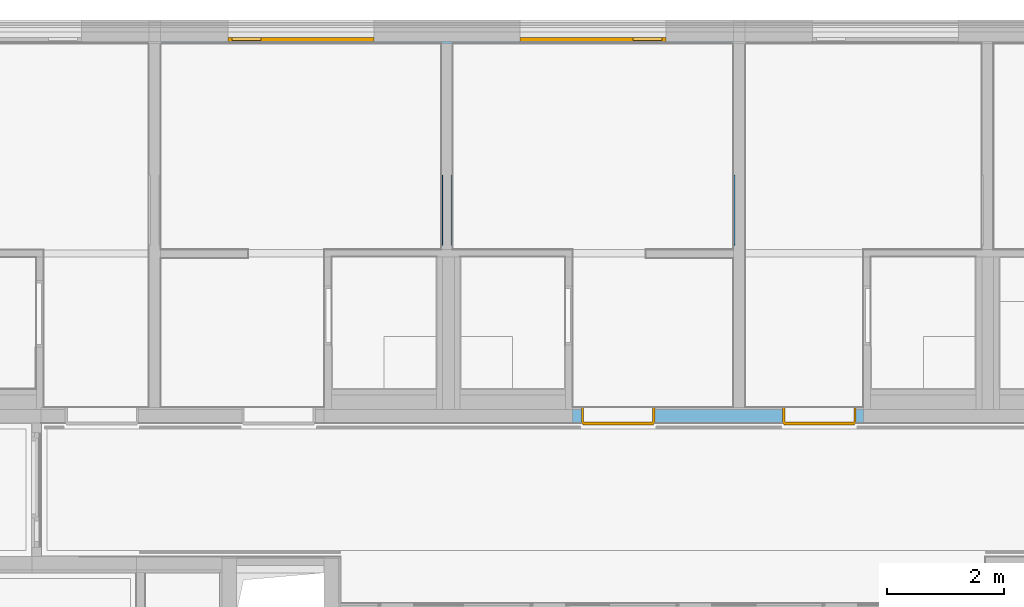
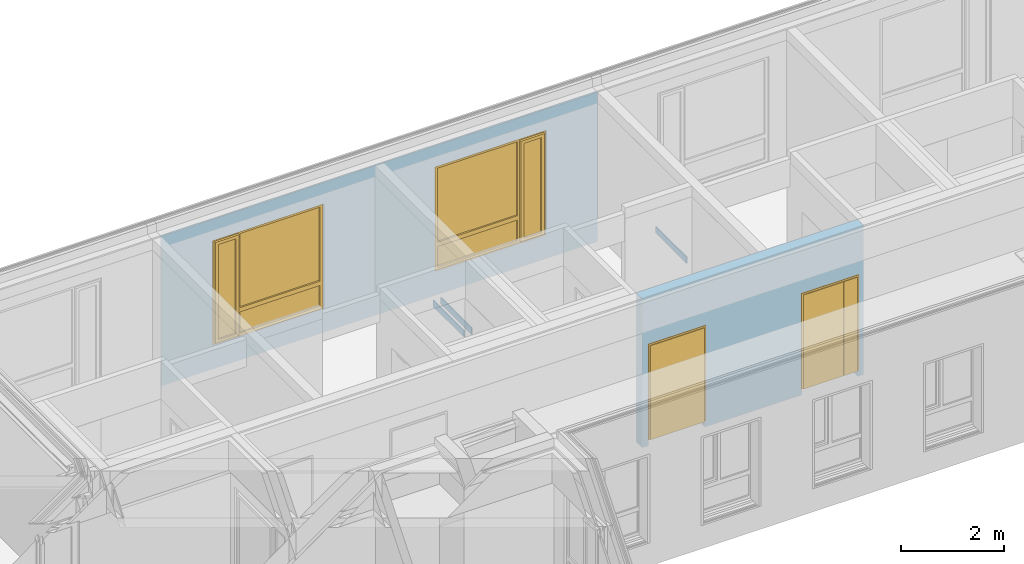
# One storey, part 142 of 222: 3 walls, 2 doors, 2 windows, 4 openings, plus 2 elements that do not belong to this part.
"""IFC4 building model written with IfcOpenShell, lengths in metres."""

from ifc_helpers import new_model, entity, si_unit, converted_unit, derived_unit, frame, frame_2d, origin, origin_with_axes, place, context, subcontext, project, spatial, polyline, rectangle, outline, extrude, closed_shell, open_shell, faceted_brep, surface_model, source, transform, mapped, material, type_object, element, fill, save


model = new_model("IFC4")

# Units and contexts
model_context = context("Model", 3, precision=1e-05, world=origin())
body_context = subcontext(model_context, "Body", "Model", "MODEL_VIEW")
ifc_project = project(units=[si_unit("LENGTHUNIT", "METRE"), si_unit("AREAUNIT", "SQUARE_METRE"), si_unit("VOLUMEUNIT", "CUBIC_METRE"), si_unit("MASSUNIT", "GRAM", prefix="KILO"), converted_unit("PLANEANGLEUNIT", "DEGREE", entity("IfcPlaneAngleMeasure", 0.0174532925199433), si_unit("PLANEANGLEUNIT", "RADIAN"), dimensions=[0, 0, 0, 0, 0, 0, 0]), derived_unit("THERMALTRANSMITTANCEUNIT", [(si_unit("POWERUNIT", "WATT"), 1), (si_unit("THERMODYNAMICTEMPERATUREUNIT", "KELVIN"), -1), (si_unit("LENGTHUNIT", "METRE"), -2)]), derived_unit("VOLUMETRICFLOWRATEUNIT", [(si_unit("LENGTHUNIT", "METRE"), 3), (converted_unit("TIMEUNIT", "hour", entity("IfcTimeMeasure", 3600.0), si_unit("TIMEUNIT", "SECOND"), dimensions=[0, 0, 1, 0, 0, 0, 0]), -1), (si_unit("LENGTHUNIT", "METRE"), -1)])], contexts=[model_context])

# Site, building, storey
site_placement = place(None, origin())
site = spatial("IfcSite", under=ifc_project, at=site_placement, Name="Psychiatrie Neubau Wunstorf", CompositionType="ELEMENT")
building_placement = place(site_placement, origin())
building = spatial("IfcBuilding", under=site, at=building_placement, Name="Neubau H2 Stationsgebäude", CompositionType="ELEMENT")
storey_placement = place(building_placement, frame((0.0, 0.0, 3.6)))
storey = spatial("IfcBuildingStorey", under=building, at=storey_placement, Name="H2 Ebene +1", CompositionType="ELEMENT", Elevation=3.6)

# Wall, openings, windows
ifc_material_1 = material(Name="WA-LB")
wall_1_placement = place(storey_placement, frame((76.1, 31.614, 0.0)))
wall_1 = element("IfcWall", 1, at=wall_1_placement, inside=storey, material=ifc_material_1, context=body_context, shape_type="SweptSolid", body=[
    extrude(rectangle(XDim=9.8, YDim=0.036, at=frame_2d((4.9, 0.018), x_axis=(1.0, 0.0))), origin_with_axes(), (0.0, 0.0, 1.0), 3.55),
])
opening_1_placement = place(wall_1_placement, frame((6.15, 0.0, 0.55), z_axis=(0.0, 1.0, 0.0), x_axis=(0.0, 0.0, 1.0)))
opening_1 = element("IfcOpeningElement", 2, at=opening_1_placement, cuts=wall_1, Name="Fensteröffnung", ObjectType="Opening", context=body_context, shape_type="SweptSolid", body=[
    extrude(outline(polyline([(2.5, 2.5), (2.5, 0.0), (0.0, 0.0), (0.0, 2.5), (2.5, 2.5)])), origin_with_axes(), (0.0, 0.0, 1.0), 0.036),
])
opening_2_placement = place(wall_1_placement, frame((1.15, 0.0, 0.55), z_axis=(0.0, 1.0, 0.0), x_axis=(0.0, 0.0, 1.0)))
opening_2 = element("IfcOpeningElement", 3, at=opening_2_placement, cuts=wall_1, Name="Fensteröffnung", ObjectType="Opening", context=body_context, shape_type="SweptSolid", body=[
    extrude(outline(polyline([(2.5, 2.5), (2.5, 0.0), (0.0, 0.0), (0.0, 2.5), (2.5, 2.5)])), origin_with_axes(), (0.0, 0.0, 1.0), 0.036),
])
shared_shape_1 = source(origin_with_axes(), body_context, "Body", "SurfaceModel", [
    surface_model("IfcShellBasedSurfaceModel", [(2.5, 0.0, 2.5), (2.5, 0.0, 0.0), (2.43, 0.0, 0.0), (2.43, 0.0, 2.5), (2.5, 0.0699999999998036, 0.0), (2.5, 0.0699999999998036, 2.5), (2.43, 0.0699999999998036, 2.5), (2.43, 0.0699999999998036, 0.0)], [closed_shell([[[0, 1, 2, 3]], [[4, 5, 6, 7]], [[1, 0, 5, 4]], [[2, 1, 4, 7]], [[3, 2, 7, 6]], [[0, 3, 6, 5]]], orient=[[False], [False], [False], [False], [False], [False]])]),
    surface_model("IfcShellBasedSurfaceModel", [(0.07, 0.0, 2.5), (0.07, 0.0, 0.0), (0.0, 0.0, 0.0), (0.0, 0.0, 2.5), (0.07, 0.0699999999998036, 0.0), (0.07, 0.0699999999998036, 2.5), (0.0, 0.0699999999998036, 2.5), (0.0, 0.0699999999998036, 0.0)], [closed_shell([[[0, 1, 2, 3]], [[4, 5, 6, 7]], [[1, 0, 5, 4]], [[2, 1, 4, 7]], [[3, 2, 7, 6]], [[0, 3, 6, 5]]], orient=[[False], [False], [False], [False], [False], [False]])]),
    surface_model("IfcShellBasedSurfaceModel", [(2.43, 0.0, 0.07), (2.43, 0.0, 0.0), (0.07, 0.0, 0.0), (0.07, 0.0, 0.07), (2.43, 0.0699999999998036, 0.0), (2.43, 0.0699999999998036, 0.07), (0.07, 0.0699999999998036, 0.07), (0.07, 0.0699999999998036, 0.0)], [closed_shell([[[0, 1, 2, 3]], [[4, 5, 6, 7]], [[1, 0, 5, 4]], [[2, 1, 4, 7]], [[3, 2, 7, 6]], [[0, 3, 6, 5]]], orient=[[False], [False], [False], [False], [False], [False]])]),
    surface_model("IfcShellBasedSurfaceModel", [(2.43, 0.0, 2.5), (2.43, 0.0, 2.43), (0.07, 0.0, 2.43), (0.07, 0.0, 2.5), (2.43, 0.0699999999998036, 2.43), (2.43, 0.0699999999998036, 2.5), (0.07, 0.0699999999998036, 2.5), (0.07, 0.0699999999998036, 2.43)], [closed_shell([[[0, 1, 2, 3]], [[4, 5, 6, 7]], [[1, 0, 5, 4]], [[2, 1, 4, 7]], [[3, 2, 7, 6]], [[0, 3, 6, 5]]], orient=[[False], [False], [False], [False], [False], [False]])]),
    surface_model("IfcShellBasedSurfaceModel", [(1.934285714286, 0.0, 2.43), (1.934285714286, 0.0, 0.07), (1.864285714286, 0.0, 0.07), (1.864285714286, 0.0, 2.43), (1.934285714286, 0.0699999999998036, 0.07), (1.934285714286, 0.0699999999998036, 2.43), (1.864285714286, 0.0699999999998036, 2.43), (1.864285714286, 0.0699999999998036, 0.07)], [closed_shell([[[0, 1, 2, 3]], [[4, 5, 6, 7]], [[1, 0, 5, 4]], [[2, 1, 4, 7]], [[3, 2, 7, 6]], [[0, 3, 6, 5]]], orient=[[False], [False], [False], [False], [False], [False]])]),
    surface_model("IfcShellBasedSurfaceModel", [(2.45, -0.05, 2.45), (2.45, -0.05, 0.05), (2.38, -0.05, 0.05), (2.38, -0.05, 2.45), (2.45, 0.0199999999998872, 0.05), (2.45, 0.0199999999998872, 2.45), (2.38, 0.0199999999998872, 2.45), (2.38, 0.0199999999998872, 0.05)], [closed_shell([[[0, 1, 2, 3]], [[4, 5, 6, 7]], [[1, 0, 5, 4]], [[2, 1, 4, 7]], [[3, 2, 7, 6]], [[0, 3, 6, 5]]], orient=[[False], [False], [False], [False], [False], [False]])]),
    surface_model("IfcShellBasedSurfaceModel", [(1.984285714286, -0.05, 2.45), (1.984285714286, -0.05, 0.05), (1.914285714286, -0.05, 0.05), (1.914285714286, -0.05, 2.45), (1.984285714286, 0.0199999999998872, 0.05), (1.984285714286, 0.0199999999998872, 2.45), (1.914285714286, 0.0199999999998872, 2.45), (1.914285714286, 0.0199999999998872, 0.05)], [closed_shell([[[0, 1, 2, 3]], [[4, 5, 6, 7]], [[1, 0, 5, 4]], [[2, 1, 4, 7]], [[3, 2, 7, 6]], [[0, 3, 6, 5]]], orient=[[False], [False], [False], [False], [False], [False]])]),
    surface_model("IfcShellBasedSurfaceModel", [(2.38, -0.05, 0.12), (2.38, -0.05, 0.05), (1.984285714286, -0.05, 0.05), (1.984285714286, -0.05, 0.12), (2.38, 0.0199999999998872, 0.05), (2.38, 0.0199999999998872, 0.12), (1.984285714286, 0.0199999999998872, 0.12), (1.984285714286, 0.0199999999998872, 0.05)], [closed_shell([[[0, 1, 2, 3]], [[4, 5, 6, 7]], [[1, 0, 5, 4]], [[2, 1, 4, 7]], [[3, 2, 7, 6]], [[0, 3, 6, 5]]], orient=[[False], [False], [False], [False], [False], [False]])]),
    surface_model("IfcShellBasedSurfaceModel", [(2.38, -0.05, 2.45), (2.38, -0.05, 2.38), (1.984285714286, -0.05, 2.38), (1.984285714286, -0.05, 2.45), (2.38, 0.0199999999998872, 2.38), (2.38, 0.0199999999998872, 2.45), (1.984285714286, 0.0199999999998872, 2.45), (1.984285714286, 0.0199999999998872, 2.38)], [closed_shell([[[0, 1, 2, 3]], [[4, 5, 6, 7]], [[1, 0, 5, 4]], [[2, 1, 4, 7]], [[3, 2, 7, 6]], [[0, 3, 6, 5]]], orient=[[False], [False], [False], [False], [False], [False]])]),
    surface_model("IfcShellBasedSurfaceModel", [(1.864285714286, 0.0, 0.67), (1.864285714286, 0.0, 0.57), (0.07, 0.0, 0.57), (0.07, 0.0, 0.67), (1.864285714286, 0.0699999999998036, 0.57), (1.864285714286, 0.0699999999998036, 0.67), (0.07, 0.0699999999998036, 0.67), (0.07, 0.0699999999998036, 0.57)], [closed_shell([[[0, 1, 2, 3]], [[4, 5, 6, 7]], [[1, 0, 5, 4]], [[2, 1, 4, 7]], [[3, 2, 7, 6]], [[0, 3, 6, 5]]], orient=[[False], [False], [False], [False], [False], [False]])]),
    surface_model("IfcShellBasedSurfaceModel", [(2.38, -0.0150000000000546, 0.12), (1.984285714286, -0.0150000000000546, 0.12), (1.984285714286, -0.0150000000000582, 2.38), (2.38, -0.0150000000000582, 2.38)], [open_shell([[[0, 1, 2, 3]]], orient=[[False]])]),
    surface_model("IfcShellBasedSurfaceModel", [(1.864285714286, 0.0349999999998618, 0.07), (0.07, 0.0349999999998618, 0.07), (0.07, 0.0349999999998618, 0.57), (1.864285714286, 0.0349999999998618, 0.57)], [open_shell([[[0, 1, 2, 3]]], orient=[[False]])]),
    surface_model("IfcShellBasedSurfaceModel", [(1.864285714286, 0.0349999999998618, 0.67), (0.07, 0.0349999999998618, 0.67), (0.07, 0.0349999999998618, 2.43), (1.864285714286, 0.0349999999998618, 2.43)], [open_shell([[[0, 1, 2, 3]]], orient=[[False]])]),
])
window_1_placement = place(opening_1_placement, frame((0.0, 0.0, 0.03), z_axis=(1.0, 0.0, 0.0), x_axis=(0.0, 1.0, 0.0)))
window_1 = element("IfcWindow", 4, at=window_1_placement, inside=storey, Name="Fenster", OverallHeight=2.5, OverallWidth=2.5, PartitioningType="USERDEFINED", PredefinedType="WINDOW", context=body_context, shape_type="MappedRepresentation", body=[
    mapped(shared_shape_1, transform((0.0, 0.0, 0.0), x_axis=(1.0, 0.0, 0.0), y_axis=(0.0, 1.0, 0.0), z_axis=(0.0, 0.0, 1.0), scale=1.0)),
])
fill(opening_1, window_1)
shared_shape_2 = source(origin_with_axes(), body_context, "Body", "SurfaceModel", [
    surface_model("IfcShellBasedSurfaceModel", [(0.0, 0.0, 2.5), (0.07, 0.0, 2.5), (0.07, 0.0, 0.0), (0.0, 0.0, 0.0), (0.0, 0.0699999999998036, 0.0), (0.07, 0.0699999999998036, 0.0), (0.07, 0.0699999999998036, 2.5), (0.0, 0.0699999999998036, 2.5)], [closed_shell([[[0, 1, 2, 3]], [[4, 5, 6, 7]], [[3, 4, 7, 0]], [[2, 5, 4, 3]], [[1, 6, 5, 2]], [[0, 7, 6, 1]]], orient=[[False], [False], [False], [False], [False], [False]])]),
    surface_model("IfcShellBasedSurfaceModel", [(2.43, 0.0, 2.5), (2.5, 0.0, 2.5), (2.5, 0.0, 0.0), (2.43, 0.0, 0.0), (2.43, 0.0699999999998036, 0.0), (2.5, 0.0699999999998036, 0.0), (2.5, 0.0699999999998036, 2.5), (2.43, 0.0699999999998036, 2.5)], [closed_shell([[[0, 1, 2, 3]], [[4, 5, 6, 7]], [[3, 4, 7, 0]], [[2, 5, 4, 3]], [[1, 6, 5, 2]], [[0, 7, 6, 1]]], orient=[[False], [False], [False], [False], [False], [False]])]),
    surface_model("IfcShellBasedSurfaceModel", [(0.07, 0.0, 0.07), (2.43, 0.0, 0.07), (2.43, 0.0, 0.0), (0.07, 0.0, 0.0), (0.07, 0.0699999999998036, 0.0), (2.43, 0.0699999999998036, 0.0), (2.43, 0.0699999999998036, 0.07), (0.07, 0.0699999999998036, 0.07)], [closed_shell([[[0, 1, 2, 3]], [[4, 5, 6, 7]], [[3, 4, 7, 0]], [[2, 5, 4, 3]], [[1, 6, 5, 2]], [[0, 7, 6, 1]]], orient=[[False], [False], [False], [False], [False], [False]])]),
    surface_model("IfcShellBasedSurfaceModel", [(0.07, 0.0, 2.5), (2.43, 0.0, 2.5), (2.43, 0.0, 2.43), (0.07, 0.0, 2.43), (0.07, 0.0699999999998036, 2.43), (2.43, 0.0699999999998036, 2.43), (2.43, 0.0699999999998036, 2.5), (0.07, 0.0699999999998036, 2.5)], [closed_shell([[[0, 1, 2, 3]], [[4, 5, 6, 7]], [[3, 4, 7, 0]], [[2, 5, 4, 3]], [[1, 6, 5, 2]], [[0, 7, 6, 1]]], orient=[[False], [False], [False], [False], [False], [False]])]),
    surface_model("IfcShellBasedSurfaceModel", [(0.565714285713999, 0.0, 2.43), (0.635714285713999, 0.0, 2.43), (0.635714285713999, 0.0, 0.07), (0.565714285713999, 0.0, 0.07), (0.565714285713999, 0.0699999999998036, 0.07), (0.635714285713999, 0.0699999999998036, 0.07), (0.635714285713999, 0.0699999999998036, 2.43), (0.565714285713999, 0.0699999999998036, 2.43)], [closed_shell([[[0, 1, 2, 3]], [[4, 5, 6, 7]], [[3, 4, 7, 0]], [[2, 5, 4, 3]], [[1, 6, 5, 2]], [[0, 7, 6, 1]]], orient=[[False], [False], [False], [False], [False], [False]])]),
    surface_model("IfcShellBasedSurfaceModel", [(0.05, -0.05, 2.45), (0.12, -0.05, 2.45), (0.12, -0.05, 0.05), (0.05, -0.05, 0.05), (0.05, 0.0199999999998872, 0.05), (0.12, 0.0199999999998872, 0.05), (0.12, 0.0199999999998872, 2.45), (0.05, 0.0199999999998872, 2.45)], [closed_shell([[[0, 1, 2, 3]], [[4, 5, 6, 7]], [[3, 4, 7, 0]], [[2, 5, 4, 3]], [[1, 6, 5, 2]], [[0, 7, 6, 1]]], orient=[[False], [False], [False], [False], [False], [False]])]),
    surface_model("IfcShellBasedSurfaceModel", [(0.515714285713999, -0.05, 2.45), (0.585714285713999, -0.05, 2.45), (0.585714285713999, -0.05, 0.05), (0.515714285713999, -0.05, 0.05), (0.515714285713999, 0.0199999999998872, 0.05), (0.585714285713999, 0.0199999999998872, 0.05), (0.585714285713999, 0.0199999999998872, 2.45), (0.515714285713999, 0.0199999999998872, 2.45)], [closed_shell([[[0, 1, 2, 3]], [[4, 5, 6, 7]], [[3, 4, 7, 0]], [[2, 5, 4, 3]], [[1, 6, 5, 2]], [[0, 7, 6, 1]]], orient=[[False], [False], [False], [False], [False], [False]])]),
    surface_model("IfcShellBasedSurfaceModel", [(0.12, -0.05, 0.12), (0.515714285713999, -0.05, 0.12), (0.515714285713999, -0.05, 0.05), (0.12, -0.05, 0.05), (0.12, 0.0199999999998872, 0.05), (0.515714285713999, 0.0199999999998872, 0.05), (0.515714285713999, 0.0199999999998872, 0.12), (0.12, 0.0199999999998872, 0.12)], [closed_shell([[[0, 1, 2, 3]], [[4, 5, 6, 7]], [[3, 4, 7, 0]], [[2, 5, 4, 3]], [[1, 6, 5, 2]], [[0, 7, 6, 1]]], orient=[[False], [False], [False], [False], [False], [False]])]),
    surface_model("IfcShellBasedSurfaceModel", [(0.12, -0.05, 2.45), (0.515714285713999, -0.05, 2.45), (0.515714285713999, -0.05, 2.38), (0.12, -0.05, 2.38), (0.12, 0.0199999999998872, 2.38), (0.515714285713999, 0.0199999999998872, 2.38), (0.515714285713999, 0.0199999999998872, 2.45), (0.12, 0.0199999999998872, 2.45)], [closed_shell([[[0, 1, 2, 3]], [[4, 5, 6, 7]], [[3, 4, 7, 0]], [[2, 5, 4, 3]], [[1, 6, 5, 2]], [[0, 7, 6, 1]]], orient=[[False], [False], [False], [False], [False], [False]])]),
    surface_model("IfcShellBasedSurfaceModel", [(0.635714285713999, 0.0, 0.67), (2.43, 0.0, 0.67), (2.43, 0.0, 0.57), (0.635714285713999, 0.0, 0.57), (0.635714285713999, 0.0699999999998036, 0.57), (2.43, 0.0699999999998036, 0.57), (2.43, 0.0699999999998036, 0.67), (0.635714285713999, 0.0699999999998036, 0.67)], [closed_shell([[[0, 1, 2, 3]], [[4, 5, 6, 7]], [[3, 4, 7, 0]], [[2, 5, 4, 3]], [[1, 6, 5, 2]], [[0, 7, 6, 1]]], orient=[[False], [False], [False], [False], [False], [False]])]),
    surface_model("IfcShellBasedSurfaceModel", [(0.12, -0.0150000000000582, 0.12), (0.12, -0.0150000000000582, 2.38), (0.515714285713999, -0.0150000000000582, 2.38), (0.515714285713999, -0.0150000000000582, 0.12)], [open_shell([[[0, 1, 2, 3]]], orient=[[False]])]),
    surface_model("IfcShellBasedSurfaceModel", [(0.635714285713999, 0.0349999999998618, 0.07), (0.635714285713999, 0.0349999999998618, 0.57), (2.43, 0.0349999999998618, 0.57), (2.43, 0.0349999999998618, 0.07)], [open_shell([[[0, 1, 2, 3]]], orient=[[False]])]),
    surface_model("IfcShellBasedSurfaceModel", [(0.635714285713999, 0.0349999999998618, 0.67), (0.635714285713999, 0.0349999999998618, 2.43), (2.43, 0.0349999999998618, 2.43), (2.43, 0.0349999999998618, 0.67)], [open_shell([[[0, 1, 2, 3]]], orient=[[False]])]),
])
window_2_placement = place(opening_2_placement, frame((0.0, 0.0, 0.03), z_axis=(1.0, 0.0, 0.0), x_axis=(0.0, 1.0, 0.0)))
window_2 = element("IfcWindow", 5, at=window_2_placement, inside=storey, Name="Fenster", OverallHeight=2.5, OverallWidth=2.5, PartitioningType="USERDEFINED", PredefinedType="WINDOW", context=body_context, shape_type="MappedRepresentation", body=[
    mapped(shared_shape_2, transform((0.0, 0.0, 0.0), x_axis=(1.0, 0.0, 0.0), y_axis=(0.0, 1.0, 0.0), z_axis=(0.0, 0.0, 1.0), scale=1.0)),
])
fill(opening_2, window_2)

# Wall, openings, doors
ifc_material_2 = material(Name="WI-HW 60")
wall_2_placement = place(storey_placement, frame((83.15, 25.1175, 0.0)))
wall_2 = element("IfcWall", 6, at=wall_2_placement, inside=storey, material=ifc_material_2, context=body_context, shape_type="SweptSolid", body=[
    extrude(rectangle(XDim=4.975, YDim=0.232, at=frame_2d((2.4875, 0.116), x_axis=(1.0, 0.0))), origin_with_axes(), (0.0, 0.0, 1.0), 3.55),
])
opening_3_placement = place(wall_2_placement, frame((0.15, 0.0, 0.0), z_axis=(0.0, 1.0, 0.0), x_axis=(0.0, 0.0, 1.0)))
opening_3 = element("IfcOpeningElement", 7, at=opening_3_placement, cuts=wall_2, Name="Türöffnung", ObjectType="Opening", context=body_context, shape_type="SweptSolid", body=[
    extrude(outline(polyline([(2.41, 1.26), (2.41, 0.0), (0.0, 0.0), (0.0, 1.26), (2.41, 1.26)])), origin_with_axes(), (0.0, 0.0, 1.0), 0.232),
])
opening_4_placement = place(wall_2_placement, frame((3.59, 0.0, 0.0), z_axis=(0.0, 1.0, 0.0), x_axis=(0.0, 0.0, 1.0)))
opening_4 = element("IfcOpeningElement", 8, at=opening_4_placement, cuts=wall_2, Name="Türöffnung", ObjectType="Opening", context=body_context, shape_type="SweptSolid", body=[
    extrude(outline(polyline([(2.41, 1.26), (2.41, 0.0), (0.0, 0.0), (0.0, 1.26), (2.41, 1.26)])), origin_with_axes(), (0.0, 0.0, 1.0), 0.232),
])
ifc_material_3 = material(Name="TI-2F-UZ-D")
door_type_1 = type_object("IfcDoorType", Name="SMT", OperationType="DOUBLE_DOOR_SINGLE_SWING", ParameterTakesPrecedence=False, PredefinedType="DOOR")
shared_shape_3 = source(origin_with_axes(), body_context, "Body", "Brep", [
    faceted_brep([(0.0, -0.0150000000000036, 2.41), (0.04, -0.0150000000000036, 2.41), (0.04, -0.0150000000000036, 0.15), (0.0, -0.0150000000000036, 0.15), (0.0, 0.286999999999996, 0.15), (0.04, 0.286999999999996, 0.15), (0.04, 0.286999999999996, 2.41), (0.0, 0.286999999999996, 2.41)], [[[0, 1, 2, 3]], [[4, 5, 6, 7]], [[3, 4, 7, 0]], [[2, 5, 4, 3]], [[1, 6, 5, 2]], [[0, 7, 6, 1]]], orient=[[False], [False], [False], [False], [False], [False]]),
    faceted_brep([(0.0, -0.0150000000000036, 2.425), (0.0, -0.0150000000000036, 0.15), (-0.015, -0.0150000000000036, 0.15), (-0.015, -0.0150000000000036, 2.425), (0.0, 0.0, 0.15), (0.0, 0.0, 2.425), (-0.015, 0.0, 2.425), (-0.015, 0.0, 0.15)], [[[0, 1, 2, 3]], [[4, 5, 6, 7]], [[1, 0, 5, 4]], [[2, 1, 4, 7]], [[3, 2, 7, 6]], [[0, 3, 6, 5]]], orient=[[False], [False], [False], [False], [False], [False]]),
    faceted_brep([(0.0, 0.271999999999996, 2.425), (0.0, 0.271999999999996, 0.15), (-0.015, 0.271999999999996, 0.15), (-0.015, 0.271999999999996, 2.425), (0.0, 0.286999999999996, 0.15), (0.0, 0.286999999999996, 2.425), (-0.015, 0.286999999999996, 2.425), (-0.015, 0.286999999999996, 0.15)], [[[0, 1, 2, 3]], [[4, 5, 6, 7]], [[1, 0, 5, 4]], [[2, 1, 4, 7]], [[3, 2, 7, 6]], [[0, 3, 6, 5]]], orient=[[False], [False], [False], [False], [False], [False]]),
    faceted_brep([(1.22, -0.0150000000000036, 2.41), (1.26, -0.0150000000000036, 2.41), (1.26, -0.0150000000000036, 0.15), (1.22, -0.0150000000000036, 0.15), (1.22, 0.286999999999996, 0.15), (1.26, 0.286999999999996, 0.15), (1.26, 0.286999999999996, 2.41), (1.22, 0.286999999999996, 2.41)], [[[0, 1, 2, 3]], [[4, 5, 6, 7]], [[3, 4, 7, 0]], [[2, 5, 4, 3]], [[1, 6, 5, 2]], [[0, 7, 6, 1]]], orient=[[False], [False], [False], [False], [False], [False]]),
    faceted_brep([(1.26, -0.0150000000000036, 2.425), (1.275, -0.0150000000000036, 2.425), (1.275, -0.0150000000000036, 0.15), (1.26, -0.0150000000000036, 0.15), (1.26, 0.0, 0.15), (1.275, 0.0, 0.15), (1.275, 0.0, 2.425), (1.26, 0.0, 2.425)], [[[0, 1, 2, 3]], [[4, 5, 6, 7]], [[3, 4, 7, 0]], [[2, 5, 4, 3]], [[1, 6, 5, 2]], [[0, 7, 6, 1]]], orient=[[False], [False], [False], [False], [False], [False]]),
    faceted_brep([(1.26, 0.271999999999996, 2.425), (1.275, 0.271999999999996, 2.425), (1.275, 0.271999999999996, 0.15), (1.26, 0.271999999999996, 0.15), (1.26, 0.286999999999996, 0.15), (1.275, 0.286999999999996, 0.15), (1.275, 0.286999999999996, 2.425), (1.26, 0.286999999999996, 2.425)], [[[0, 1, 2, 3]], [[4, 5, 6, 7]], [[3, 4, 7, 0]], [[2, 5, 4, 3]], [[1, 6, 5, 2]], [[0, 7, 6, 1]]], orient=[[False], [False], [False], [False], [False], [False]]),
    faceted_brep([(0.04, -0.0150000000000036, 2.41), (1.22, -0.0150000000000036, 2.41), (1.22, -0.0150000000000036, 2.37), (0.04, -0.0150000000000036, 2.37), (0.04, 0.286999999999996, 2.37), (1.22, 0.286999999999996, 2.37), (1.22, 0.286999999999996, 2.41), (0.04, 0.286999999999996, 2.41)], [[[0, 1, 2, 3]], [[4, 5, 6, 7]], [[3, 4, 7, 0]], [[2, 5, 4, 3]], [[1, 6, 5, 2]], [[0, 7, 6, 1]]], orient=[[False], [False], [False], [False], [False], [False]]),
    faceted_brep([(0.0, -0.0150000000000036, 2.425), (1.26, -0.0150000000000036, 2.425), (1.26, -0.0150000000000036, 2.41), (0.0, -0.0150000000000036, 2.41), (0.0, 0.0, 2.41), (1.26, 0.0, 2.41), (1.26, 0.0, 2.425), (0.0, 0.0, 2.425)], [[[0, 1, 2, 3]], [[4, 5, 6, 7]], [[3, 4, 7, 0]], [[2, 5, 4, 3]], [[1, 6, 5, 2]], [[0, 7, 6, 1]]], orient=[[False], [False], [False], [False], [False], [False]]),
    faceted_brep([(0.0, 0.271999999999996, 2.425), (1.26, 0.271999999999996, 2.425), (1.26, 0.271999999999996, 2.41), (0.0, 0.271999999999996, 2.41), (0.0, 0.286999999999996, 2.41), (1.26, 0.286999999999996, 2.41), (1.26, 0.286999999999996, 2.425), (0.0, 0.286999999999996, 2.425)], [[[0, 1, 2, 3]], [[4, 5, 6, 7]], [[3, 4, 7, 0]], [[2, 5, 4, 3]], [[1, 6, 5, 2]], [[0, 7, 6, 1]]], orient=[[False], [False], [False], [False], [False], [False]]),
    faceted_brep([(0.025, 0.251999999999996, 2.385), (0.925, 0.251999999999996, 2.385), (0.925, 0.251999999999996, 0.15), (0.025, 0.251999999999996, 0.15), (0.025, 0.301999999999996, 0.15), (0.925, 0.301999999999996, 0.15), (0.925, 0.301999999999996, 2.385), (0.025, 0.301999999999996, 2.385)], [[[0, 1, 2, 3]], [[4, 5, 6, 7]], [[3, 4, 7, 0]], [[2, 5, 4, 3]], [[1, 6, 5, 2]], [[0, 7, 6, 1]]], orient=[[False], [False], [False], [False], [False], [False]]),
    faceted_brep([(0.926, 0.251999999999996, 2.385), (1.235, 0.251999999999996, 2.385), (1.235, 0.251999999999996, 0.15), (0.926, 0.251999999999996, 0.15), (0.926, 0.301999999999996, 0.15), (1.235, 0.301999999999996, 0.15), (1.235, 0.301999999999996, 2.385), (0.926, 0.301999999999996, 2.385)], [[[0, 1, 2, 3]], [[4, 5, 6, 7]], [[3, 4, 7, 0]], [[2, 5, 4, 3]], [[1, 6, 5, 2]], [[0, 7, 6, 1]]], orient=[[False], [False], [False], [False], [False], [False]]),
])
door_1_placement = place(opening_3_placement, frame((0.0, 1.26, 0.271999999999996), z_axis=(1.0, 0.0, 0.0), x_axis=(0.0, -1.0, 0.0)))
door_1 = element("IfcDoor", 9, at=door_1_placement, inside=storey, type_object=door_type_1, material=ifc_material_3, Name="SMT", OverallHeight=2.41, OverallWidth=1.26, context=body_context, shape_type="MappedRepresentation", body=[
    mapped(shared_shape_3, transform((0.0, 0.0, 0.0), x_axis=(1.0, 0.0, 0.0), y_axis=(0.0, 1.0, 0.0), z_axis=(0.0, 0.0, 1.0), scale=1.0)),
])
fill(opening_3, door_1)
ifc_material_4 = material(Name="TI-2F-UZ-D")
door_type_2 = type_object("IfcDoorType", Name="SMT", OperationType="DOUBLE_DOOR_SINGLE_SWING", ParameterTakesPrecedence=False, PredefinedType="DOOR")
shared_shape_4 = source(origin_with_axes(), body_context, "Body", "Brep", [
    faceted_brep([(1.26, -0.0150000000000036, 2.41), (1.26, -0.0150000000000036, 0.15), (1.22, -0.0150000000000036, 0.15), (1.22, -0.0150000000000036, 2.41), (1.26, 0.286999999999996, 0.15), (1.26, 0.286999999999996, 2.41), (1.22, 0.286999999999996, 2.41), (1.22, 0.286999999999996, 0.15)], [[[0, 1, 2, 3]], [[4, 5, 6, 7]], [[1, 0, 5, 4]], [[2, 1, 4, 7]], [[3, 2, 7, 6]], [[0, 3, 6, 5]]], orient=[[False], [False], [False], [False], [False], [False]]),
    faceted_brep([(1.26, -0.0150000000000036, 2.425), (1.275, -0.0150000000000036, 2.425), (1.275, -0.0150000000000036, 0.15), (1.26, -0.0150000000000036, 0.15), (1.26, 0.0, 0.15), (1.275, 0.0, 0.15), (1.275, 0.0, 2.425), (1.26, 0.0, 2.425)], [[[0, 1, 2, 3]], [[4, 5, 6, 7]], [[3, 4, 7, 0]], [[2, 5, 4, 3]], [[1, 6, 5, 2]], [[0, 7, 6, 1]]], orient=[[False], [False], [False], [False], [False], [False]]),
    faceted_brep([(1.26, 0.271999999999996, 2.425), (1.275, 0.271999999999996, 2.425), (1.275, 0.271999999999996, 0.15), (1.26, 0.271999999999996, 0.15), (1.26, 0.286999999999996, 0.15), (1.275, 0.286999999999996, 0.15), (1.275, 0.286999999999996, 2.425), (1.26, 0.286999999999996, 2.425)], [[[0, 1, 2, 3]], [[4, 5, 6, 7]], [[3, 4, 7, 0]], [[2, 5, 4, 3]], [[1, 6, 5, 2]], [[0, 7, 6, 1]]], orient=[[False], [False], [False], [False], [False], [False]]),
    faceted_brep([(0.04, -0.0150000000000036, 2.41), (0.04, -0.0150000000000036, 0.15), (0.0, -0.0150000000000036, 0.15), (0.0, -0.0150000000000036, 2.41), (0.04, 0.286999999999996, 0.15), (0.04, 0.286999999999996, 2.41), (0.0, 0.286999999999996, 2.41), (0.0, 0.286999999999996, 0.15)], [[[0, 1, 2, 3]], [[4, 5, 6, 7]], [[1, 0, 5, 4]], [[2, 1, 4, 7]], [[3, 2, 7, 6]], [[0, 3, 6, 5]]], orient=[[False], [False], [False], [False], [False], [False]]),
    faceted_brep([(0.0, -0.0150000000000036, 2.425), (0.0, -0.0150000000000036, 0.15), (-0.015, -0.0150000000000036, 0.15), (-0.015, -0.0150000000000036, 2.425), (0.0, 0.0, 0.15), (0.0, 0.0, 2.425), (-0.015, 0.0, 2.425), (-0.015, 0.0, 0.15)], [[[0, 1, 2, 3]], [[4, 5, 6, 7]], [[1, 0, 5, 4]], [[2, 1, 4, 7]], [[3, 2, 7, 6]], [[0, 3, 6, 5]]], orient=[[False], [False], [False], [False], [False], [False]]),
    faceted_brep([(0.0, 0.271999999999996, 2.425), (0.0, 0.271999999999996, 0.15), (-0.015, 0.271999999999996, 0.15), (-0.015, 0.271999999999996, 2.425), (0.0, 0.286999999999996, 0.15), (0.0, 0.286999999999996, 2.425), (-0.015, 0.286999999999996, 2.425), (-0.015, 0.286999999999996, 0.15)], [[[0, 1, 2, 3]], [[4, 5, 6, 7]], [[1, 0, 5, 4]], [[2, 1, 4, 7]], [[3, 2, 7, 6]], [[0, 3, 6, 5]]], orient=[[False], [False], [False], [False], [False], [False]]),
    faceted_brep([(1.22, -0.0150000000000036, 2.41), (1.22, -0.0150000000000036, 2.37), (0.04, -0.0150000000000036, 2.37), (0.04, -0.0150000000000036, 2.41), (1.22, 0.286999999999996, 2.37), (1.22, 0.286999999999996, 2.41), (0.04, 0.286999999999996, 2.41), (0.04, 0.286999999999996, 2.37)], [[[0, 1, 2, 3]], [[4, 5, 6, 7]], [[1, 0, 5, 4]], [[2, 1, 4, 7]], [[3, 2, 7, 6]], [[0, 3, 6, 5]]], orient=[[False], [False], [False], [False], [False], [False]]),
    faceted_brep([(1.26, -0.0150000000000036, 2.425), (1.26, -0.0150000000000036, 2.41), (0.0, -0.0150000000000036, 2.41), (0.0, -0.0150000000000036, 2.425), (1.26, 0.0, 2.41), (1.26, 0.0, 2.425), (0.0, 0.0, 2.425), (0.0, 0.0, 2.41)], [[[0, 1, 2, 3]], [[4, 5, 6, 7]], [[1, 0, 5, 4]], [[2, 1, 4, 7]], [[3, 2, 7, 6]], [[0, 3, 6, 5]]], orient=[[False], [False], [False], [False], [False], [False]]),
    faceted_brep([(1.26, 0.271999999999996, 2.425), (1.26, 0.271999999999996, 2.41), (0.0, 0.271999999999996, 2.41), (0.0, 0.271999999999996, 2.425), (1.26, 0.286999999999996, 2.41), (1.26, 0.286999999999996, 2.425), (0.0, 0.286999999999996, 2.425), (0.0, 0.286999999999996, 2.41)], [[[0, 1, 2, 3]], [[4, 5, 6, 7]], [[1, 0, 5, 4]], [[2, 1, 4, 7]], [[3, 2, 7, 6]], [[0, 3, 6, 5]]], orient=[[False], [False], [False], [False], [False], [False]]),
    faceted_brep([(1.235, 0.251999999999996, 2.385), (1.235, 0.251999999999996, 0.15), (0.335, 0.251999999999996, 0.15), (0.335, 0.251999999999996, 2.385), (1.235, 0.301999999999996, 0.15), (1.235, 0.301999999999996, 2.385), (0.335, 0.301999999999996, 2.385), (0.335, 0.301999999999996, 0.15)], [[[0, 1, 2, 3]], [[4, 5, 6, 7]], [[1, 0, 5, 4]], [[2, 1, 4, 7]], [[3, 2, 7, 6]], [[0, 3, 6, 5]]], orient=[[False], [False], [False], [False], [False], [False]]),
    faceted_brep([(0.334, 0.251999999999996, 2.385), (0.334, 0.251999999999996, 0.15), (0.025, 0.251999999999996, 0.15), (0.025, 0.251999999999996, 2.385), (0.334, 0.301999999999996, 0.15), (0.334, 0.301999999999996, 2.385), (0.025, 0.301999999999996, 2.385), (0.025, 0.301999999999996, 0.15)], [[[0, 1, 2, 3]], [[4, 5, 6, 7]], [[1, 0, 5, 4]], [[2, 1, 4, 7]], [[3, 2, 7, 6]], [[0, 3, 6, 5]]], orient=[[False], [False], [False], [False], [False], [False]]),
])
door_2_placement = place(opening_4_placement, frame((0.0, 1.26, 0.271999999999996), z_axis=(1.0, 0.0, 0.0), x_axis=(0.0, -1.0, 0.0)))
door_2 = element("IfcDoor", 10, at=door_2_placement, inside=storey, type_object=door_type_2, material=ifc_material_4, Name="SMT", OverallHeight=2.41, OverallWidth=1.26, context=body_context, shape_type="MappedRepresentation", body=[
    mapped(shared_shape_4, transform((0.0, 0.0, 0.0), x_axis=(1.0, 0.0, 0.0), y_axis=(0.0, 1.0, 0.0), z_axis=(0.0, 0.0, 1.0), scale=1.0)),
])
fill(opening_4, door_2)

# Walls
for number, where, name in (
    (11, (81.075, 28.1628, 1.575), "WV 1.1"),
    (12, (85.9000000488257, 28.1628, 1.575), "WV 1.1"),
    (13, (80.9, 28.1628, 1.575), "WV 1.1"),
):
    element("IfcWall", number, at=place(storey_placement, frame(where)), inside=storey, Name=name, context=body_context, shape_type="Brep", body=[
        faceted_brep([(0.025, 1.2, 0.0), (0.0, 1.2, 0.0), (0.0, 0.0, 0.0), (0.025, 0.0, 0.0), (0.0, 1.2, 0.15), (0.025, 1.2, 0.15), (0.025, 0.0, 0.15), (0.0, 0.0, 0.15)], [[[0, 1, 2, 3]], [[4, 5, 6, 7]], [[1, 0, 5, 4]], [[2, 1, 4, 7]], [[3, 2, 7, 6]], [[0, 3, 6, 5]]], orient=[[False], [False], [False], [False], [False], [False]]),
    ])

save(model, "model.ifc")
